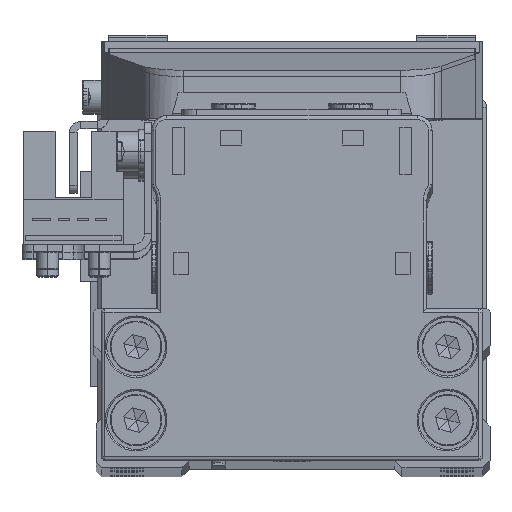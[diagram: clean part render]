
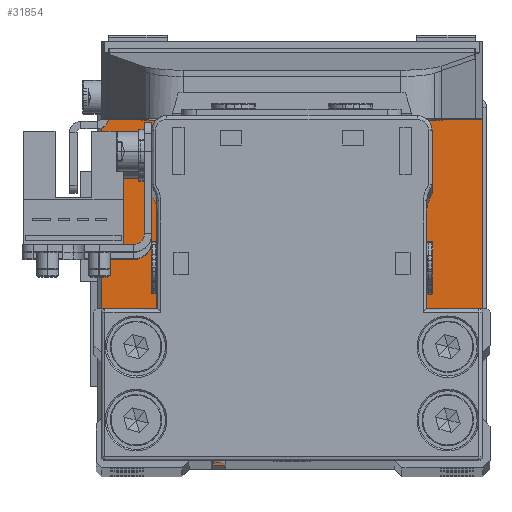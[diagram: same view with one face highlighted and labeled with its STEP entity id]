
A CAD part, top view. The second image highlights one B-rep face of the part: STEP entity #31854.
In plain terms, the highlighted planar face has unit normal (0, 0, 1).
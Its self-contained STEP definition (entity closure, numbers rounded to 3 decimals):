
#254 = AXIS2_PLACEMENT_3D ( 'NONE', #17244, #27834, #4030 ) ;
#571 = ORIENTED_EDGE ( 'NONE', *, *, #6163, .T. ) ;
#731 = ORIENTED_EDGE ( 'NONE', *, *, #13848, .T. ) ;
#887 = VERTEX_POINT ( 'NONE', #3311 ) ;
#1031 = DIRECTION ( 'NONE',  ( 0., 0., 1. ) ) ;
#1122 = VERTEX_POINT ( 'NONE', #4830 ) ;
#1468 = FACE_BOUND ( 'NONE', #24399, .T. ) ;
#1710 = EDGE_CURVE ( 'NONE', #16920, #1122, #8088, .T. ) ;
#1786 = DIRECTION ( 'NONE',  ( 0., 0., -1. ) ) ;
#2144 = CIRCLE ( 'NONE', #21554, 2.4 ) ;
#2528 = CIRCLE ( 'NONE', #26386, 2.4 ) ;
#2668 = CARTESIAN_POINT ( 'NONE',  ( 26., -23.95, 6.5 ) ) ;
#2721 = EDGE_CURVE ( 'NONE', #18629, #15304, #2528, .T. ) ;
#2867 = VERTEX_POINT ( 'NONE', #5408 ) ;
#2881 = ORIENTED_EDGE ( 'NONE', *, *, #8397, .T. ) ;
#2892 = CIRCLE ( 'NONE', #22290, 2.4 ) ;
#3046 = EDGE_LOOP ( 'NONE', ( #731, #22607 ) ) ;
#3249 = LINE ( 'NONE', #13840, #10377 ) ;
#3311 = CARTESIAN_POINT ( 'NONE',  ( -23.65, 19.95, 6.5 ) ) ;
#4030 = DIRECTION ( 'NONE',  ( -1., 0., 0. ) ) ;
#4066 = EDGE_LOOP ( 'NONE', ( #21188, #2881 ) ) ;
#4405 = DIRECTION ( 'NONE',  ( 0., 0., 1. ) ) ;
#4830 = CARTESIAN_POINT ( 'NONE',  ( 25., 24.95, 6.5 ) ) ;
#5408 = CARTESIAN_POINT ( 'NONE',  ( 25., -24.95, 6.5 ) ) ;
#5521 = CARTESIAN_POINT ( 'NONE',  ( -21.25, 9.95, 6.5 ) ) ;
#5827 = DIRECTION ( 'NONE',  ( 1., 0., 0. ) ) ;
#6001 = EDGE_LOOP ( 'NONE', ( #571, #29409, #14104, #32025, #31673, #19870, #34286, #11899 ) ) ;
#6011 = LINE ( 'NONE', #16595, #17553 ) ;
#6163 = EDGE_CURVE ( 'NONE', #12343, #8969, #14246, .T. ) ;
#6332 = EDGE_LOOP ( 'NONE', ( #11370, #15162 ) ) ;
#6582 = CARTESIAN_POINT ( 'NONE',  ( -26., -23.95, 6.5 ) ) ;
#6854 = DIRECTION ( 'NONE',  ( 1., 0., 0. ) ) ;
#7641 = CARTESIAN_POINT ( 'NONE',  ( 21.25, 9.95, 6.5 ) ) ;
#7938 = DIRECTION ( 'NONE',  ( 1., 0., 0. ) ) ;
#8030 = EDGE_CURVE ( 'NONE', #2867, #32062, #12408, .T. ) ;
#8073 = VERTEX_POINT ( 'NONE', #8766 ) ;
#8088 = CIRCLE ( 'NONE', #27507, 1. ) ;
#8132 = AXIS2_PLACEMENT_3D ( 'NONE', #20050, #30655, #6854 ) ;
#8397 = EDGE_CURVE ( 'NONE', #24358, #27611, #14093, .T. ) ;
#8766 = CARTESIAN_POINT ( 'NONE',  ( -25., -24.95, 6.5 ) ) ;
#8929 = EDGE_CURVE ( 'NONE', #15304, #18629, #32987, .T. ) ;
#8969 = VERTEX_POINT ( 'NONE', #22340 ) ;
#9461 = PLANE ( 'NONE',  #8132 ) ;
#9573 = EDGE_CURVE ( 'NONE', #25970, #8073, #14142, .T. ) ;
#9606 = CARTESIAN_POINT ( 'NONE',  ( -25., 24.95, 6.5 ) ) ;
#9751 = VECTOR ( 'NONE', #20195, 1000. ) ;
#9861 = CIRCLE ( 'NONE', #29282, 2.4 ) ;
#9985 = EDGE_CURVE ( 'NONE', #33359, #25621, #15223, .T. ) ;
#10062 = DIRECTION ( 'NONE',  ( 0., 0., -1. ) ) ;
#10377 = VECTOR ( 'NONE', #24433, 1000. ) ;
#10474 = DIRECTION ( 'NONE',  ( 0., 0., -1. ) ) ;
#11370 = ORIENTED_EDGE ( 'NONE', *, *, #8929, .T. ) ;
#11386 = ORIENTED_EDGE ( 'NONE', *, *, #9985, .T. ) ;
#11412 = CARTESIAN_POINT ( 'NONE',  ( 21.25, 19.95, 6.5 ) ) ;
#11618 = DIRECTION ( 'NONE',  ( 1., 0., 0. ) ) ;
#11899 = ORIENTED_EDGE ( 'NONE', *, *, #12531, .T. ) ;
#12060 = FACE_BOUND ( 'NONE', #4066, .T. ) ;
#12193 = CARTESIAN_POINT ( 'NONE',  ( 21.25, 19.95, 6.5 ) ) ;
#12343 = VERTEX_POINT ( 'NONE', #29784 ) ;
#12383 = DIRECTION ( 'NONE',  ( -1., 0., 0. ) ) ;
#12408 = CIRCLE ( 'NONE', #31837, 1. ) ;
#12531 = EDGE_CURVE ( 'NONE', #1122, #12343, #33416, .T. ) ;
#13179 = EDGE_CURVE ( 'NONE', #8073, #2867, #3249, .T. ) ;
#13314 = VECTOR ( 'NONE', #17166, 1000. ) ;
#13840 = CARTESIAN_POINT ( 'NONE',  ( 25., -24.95, 6.5 ) ) ;
#13848 = EDGE_CURVE ( 'NONE', #887, #33182, #30408, .T. ) ;
#14093 = CIRCLE ( 'NONE', #33522, 2.4 ) ;
#14104 = ORIENTED_EDGE ( 'NONE', *, *, #9573, .T. ) ;
#14142 = CIRCLE ( 'NONE', #33574, 1. ) ;
#14246 = CIRCLE ( 'NONE', #33669, 1. ) ;
#14523 = CARTESIAN_POINT ( 'NONE',  ( 18.85, 19.95, 6.5 ) ) ;
#14865 = EDGE_CURVE ( 'NONE', #8969, #25970, #30377, .T. ) ;
#15011 = DIRECTION ( 'NONE',  ( 1., 0., 0. ) ) ;
#15162 = ORIENTED_EDGE ( 'NONE', *, *, #2721, .T. ) ;
#15223 = CIRCLE ( 'NONE', #254, 2.4 ) ;
#15290 = CARTESIAN_POINT ( 'NONE',  ( -26., -23.95, 6.5 ) ) ;
#15304 = VERTEX_POINT ( 'NONE', #14523 ) ;
#15412 = AXIS2_PLACEMENT_3D ( 'NONE', #25582, #1786, #12383 ) ;
#15464 = CARTESIAN_POINT ( 'NONE',  ( -23.65, 9.95, 6.5 ) ) ;
#16102 = DIRECTION ( 'NONE',  ( 0., 0., -1. ) ) ;
#16595 = CARTESIAN_POINT ( 'NONE',  ( 26., 23.95, 6.5 ) ) ;
#16920 = VERTEX_POINT ( 'NONE', #23876 ) ;
#17166 = DIRECTION ( 'NONE',  ( 0., -1., 0. ) ) ;
#17244 = CARTESIAN_POINT ( 'NONE',  ( 21.25, 9.95, 6.5 ) ) ;
#17553 = VECTOR ( 'NONE', #27189, 1000. ) ;
#17971 = AXIS2_PLACEMENT_3D ( 'NONE', #11412, #21994, #32623 ) ;
#18242 = DIRECTION ( 'NONE',  ( 0., 0., -1. ) ) ;
#18629 = VERTEX_POINT ( 'NONE', #21507 ) ;
#19020 = CARTESIAN_POINT ( 'NONE',  ( 25., -23.95, 6.5 ) ) ;
#19870 = ORIENTED_EDGE ( 'NONE', *, *, #31667, .T. ) ;
#19944 = ORIENTED_EDGE ( 'NONE', *, *, #27617, .T. ) ;
#20050 = CARTESIAN_POINT ( 'NONE',  ( 0., 0., 6.5 ) ) ;
#20195 = DIRECTION ( 'NONE',  ( -1., 0., 0. ) ) ;
#20223 = CARTESIAN_POINT ( 'NONE',  ( -18.85, 19.95, 6.5 ) ) ;
#20645 = DIRECTION ( 'NONE',  ( -1., 0., 0. ) ) ;
#21062 = DIRECTION ( 'NONE',  ( -1., 0., 0. ) ) ;
#21138 = CARTESIAN_POINT ( 'NONE',  ( -25., 23.95, 6.5 ) ) ;
#21188 = ORIENTED_EDGE ( 'NONE', *, *, #26637, .T. ) ;
#21245 = CARTESIAN_POINT ( 'NONE',  ( 18.85, 9.95, 6.5 ) ) ;
#21507 = CARTESIAN_POINT ( 'NONE',  ( 23.65, 19.95, 6.5 ) ) ;
#21554 = AXIS2_PLACEMENT_3D ( 'NONE', #7641, #18242, #28850 ) ;
#21994 = DIRECTION ( 'NONE',  ( 0., 0., -1. ) ) ;
#22290 = AXIS2_PLACEMENT_3D ( 'NONE', #25861, #10062, #20645 ) ;
#22340 = CARTESIAN_POINT ( 'NONE',  ( -26., 23.95, 6.5 ) ) ;
#22607 = ORIENTED_EDGE ( 'NONE', *, *, #30640, .T. ) ;
#22642 = FACE_BOUND ( 'NONE', #3046, .T. ) ;
#22771 = DIRECTION ( 'NONE',  ( 0., 0., -1. ) ) ;
#23876 = CARTESIAN_POINT ( 'NONE',  ( 26., 23.95, 6.5 ) ) ;
#24164 = CARTESIAN_POINT ( 'NONE',  ( -18.85, 9.95, 6.5 ) ) ;
#24358 = VERTEX_POINT ( 'NONE', #24164 ) ;
#24399 = EDGE_LOOP ( 'NONE', ( #11386, #19944 ) ) ;
#24433 = DIRECTION ( 'NONE',  ( 1., 0., 0. ) ) ;
#24832 = CARTESIAN_POINT ( 'NONE',  ( 25., 23.95, 6.5 ) ) ;
#25269 = FACE_BOUND ( 'NONE', #6332, .T. ) ;
#25582 = CARTESIAN_POINT ( 'NONE',  ( -21.25, 19.95, 6.5 ) ) ;
#25621 = VERTEX_POINT ( 'NONE', #31492 ) ;
#25861 = CARTESIAN_POINT ( 'NONE',  ( -21.25, 19.95, 6.5 ) ) ;
#25970 = VERTEX_POINT ( 'NONE', #15290 ) ;
#26386 = AXIS2_PLACEMENT_3D ( 'NONE', #12193, #22771, #33397 ) ;
#26637 = EDGE_CURVE ( 'NONE', #27611, #24358, #9861, .T. ) ;
#26697 = DIRECTION ( 'NONE',  ( -1., 0., 0. ) ) ;
#27189 = DIRECTION ( 'NONE',  ( 0., 1., 0. ) ) ;
#27507 = AXIS2_PLACEMENT_3D ( 'NONE', #24832, #1031, #11618 ) ;
#27611 = VERTEX_POINT ( 'NONE', #15464 ) ;
#27617 = EDGE_CURVE ( 'NONE', #25621, #33359, #2144, .T. ) ;
#27834 = DIRECTION ( 'NONE',  ( 0., 0., -1. ) ) ;
#28215 = CARTESIAN_POINT ( 'NONE',  ( -25., -23.95, 6.5 ) ) ;
#28850 = DIRECTION ( 'NONE',  ( -1., 0., 0. ) ) ;
#29282 = AXIS2_PLACEMENT_3D ( 'NONE', #5521, #16102, #26697 ) ;
#29409 = ORIENTED_EDGE ( 'NONE', *, *, #14865, .T. ) ;
#29623 = DIRECTION ( 'NONE',  ( 0., 0., 1. ) ) ;
#29784 = CARTESIAN_POINT ( 'NONE',  ( -25., 24.95, 6.5 ) ) ;
#30377 = LINE ( 'NONE', #6582, #13314 ) ;
#30408 = CIRCLE ( 'NONE', #15412, 2.4 ) ;
#30640 = EDGE_CURVE ( 'NONE', #33182, #887, #2892, .T. ) ;
#30655 = DIRECTION ( 'NONE',  ( 0., 0., 1. ) ) ;
#31492 = CARTESIAN_POINT ( 'NONE',  ( 23.65, 9.95, 6.5 ) ) ;
#31667 = EDGE_CURVE ( 'NONE', #32062, #16920, #6011, .T. ) ;
#31673 = ORIENTED_EDGE ( 'NONE', *, *, #8030, .T. ) ;
#31755 = DIRECTION ( 'NONE',  ( 0., 0., 1. ) ) ;
#31837 = AXIS2_PLACEMENT_3D ( 'NONE', #19020, #29623, #5827 ) ;
#31854 = ADVANCED_FACE ( 'NONE', ( #25269, #1468, #12060, #22642, #33266 ), #9461, .T. ) ;
#32025 = ORIENTED_EDGE ( 'NONE', *, *, #13179, .T. ) ;
#32062 = VERTEX_POINT ( 'NONE', #2668 ) ;
#32623 = DIRECTION ( 'NONE',  ( -1., 0., 0. ) ) ;
#32987 = CIRCLE ( 'NONE', #17971, 2.4 ) ;
#33182 = VERTEX_POINT ( 'NONE', #20223 ) ;
#33266 = FACE_OUTER_BOUND ( 'NONE', #6001, .T. ) ;
#33359 = VERTEX_POINT ( 'NONE', #21245 ) ;
#33397 = DIRECTION ( 'NONE',  ( -1., 0., 0. ) ) ;
#33416 = LINE ( 'NONE', #9606, #9751 ) ;
#33522 = AXIS2_PLACEMENT_3D ( 'NONE', #34289, #10474, #21062 ) ;
#33574 = AXIS2_PLACEMENT_3D ( 'NONE', #28215, #4405, #15011 ) ;
#33669 = AXIS2_PLACEMENT_3D ( 'NONE', #21138, #31755, #7938 ) ;
#34286 = ORIENTED_EDGE ( 'NONE', *, *, #1710, .T. ) ;
#34289 = CARTESIAN_POINT ( 'NONE',  ( -21.25, 9.95, 6.5 ) ) ;
